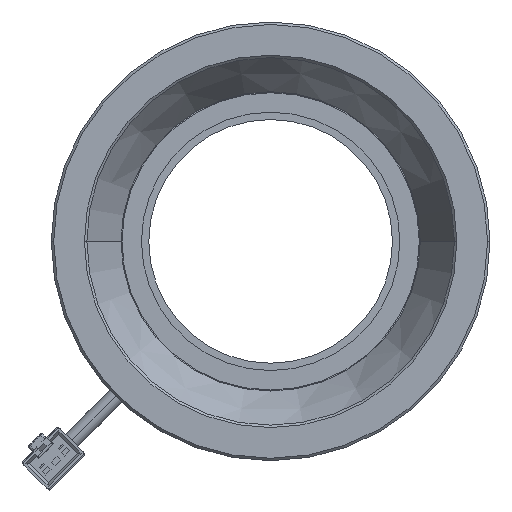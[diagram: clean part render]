
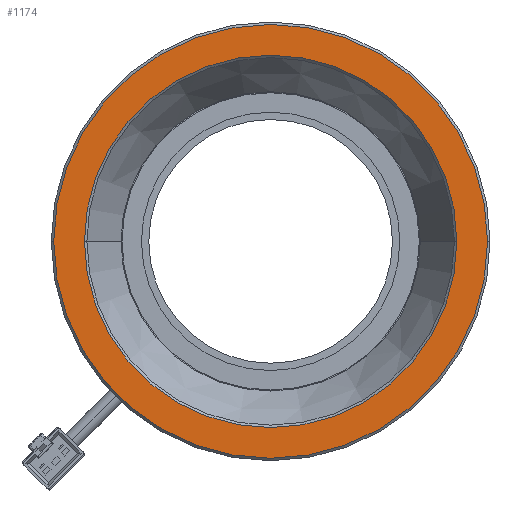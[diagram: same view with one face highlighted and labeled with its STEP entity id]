
A CAD part, front view. The second image highlights one B-rep face of the part: STEP entity #1174.
In plain terms, the highlighted planar face has unit normal (0, -1, 0).
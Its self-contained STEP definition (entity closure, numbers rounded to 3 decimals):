
#327=CARTESIAN_POINT('',(0.,-21.,0.));
#328=DIRECTION('',(0.,1.,0.));
#329=DIRECTION('',(1.,0.,0.));
#330=AXIS2_PLACEMENT_3D('',#327,#328,#329);
#332=CARTESIAN_POINT('',(0.,-21.,0.));
#333=DIRECTION('',(0.,1.,0.));
#334=DIRECTION('',(-1.,0.,0.));
#335=AXIS2_PLACEMENT_3D('',#332,#333,#334);
#337=CARTESIAN_POINT('',(0.,-21.,0.));
#338=DIRECTION('',(0.,-1.,0.));
#339=DIRECTION('',(1.,0.,0.));
#340=AXIS2_PLACEMENT_3D('',#337,#338,#339);
#342=CARTESIAN_POINT('',(0.,-21.,0.));
#343=DIRECTION('',(0.,-1.,0.));
#344=DIRECTION('',(-1.,0.,0.));
#345=AXIS2_PLACEMENT_3D('',#342,#343,#344);
#621=CARTESIAN_POINT('',(-44.5,-21.,0.));
#622=VERTEX_POINT('',#621);
#623=CARTESIAN_POINT('',(44.5,-21.,0.));
#624=VERTEX_POINT('',#623);
#625=CARTESIAN_POINT('',(38.2,-21.,0.));
#626=CARTESIAN_POINT('',(-38.2,-21.,0.));
#627=VERTEX_POINT('',#625);
#628=VERTEX_POINT('',#626);
#1159=CARTESIAN_POINT('',(0.,-21.,0.));
#1160=DIRECTION('',(0.,1.,0.));
#1161=DIRECTION('',(1.,0.,0.));
#1162=AXIS2_PLACEMENT_3D('',#1159,#1160,#1161);
#1163=PLANE('',#1162);
#1164=ORIENTED_EDGE('',*,*,#1138,.T.);
#1165=ORIENTED_EDGE('',*,*,#1154,.T.);
#1166=EDGE_LOOP('',(#1164,#1165));
#1167=FACE_OUTER_BOUND('',#1166,.F.);
#1169=ORIENTED_EDGE('',*,*,#1168,.T.);
#1171=ORIENTED_EDGE('',*,*,#1170,.T.);
#1172=EDGE_LOOP('',(#1169,#1171));
#1173=FACE_BOUND('',#1172,.F.);
#331=CIRCLE('',#330,44.5);
#336=CIRCLE('',#335,44.5);
#341=CIRCLE('',#340,38.2);
#346=CIRCLE('',#345,38.2);
#1138=EDGE_CURVE('',#624,#622,#331,.T.);
#1154=EDGE_CURVE('',#622,#624,#336,.T.);
#1168=EDGE_CURVE('',#627,#628,#341,.T.);
#1170=EDGE_CURVE('',#628,#627,#346,.T.);
#1174=ADVANCED_FACE('',(#1167,#1173),#1163,.F.);
